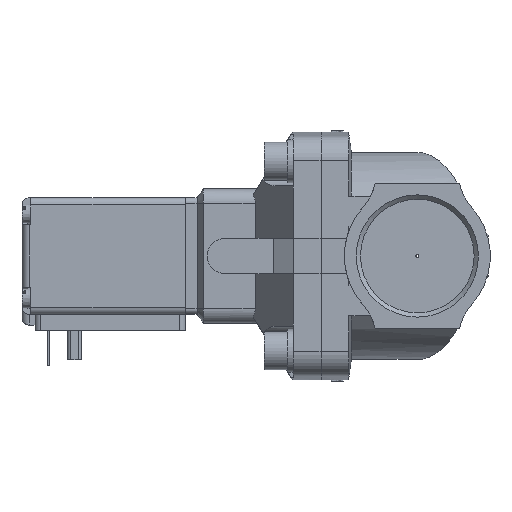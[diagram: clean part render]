
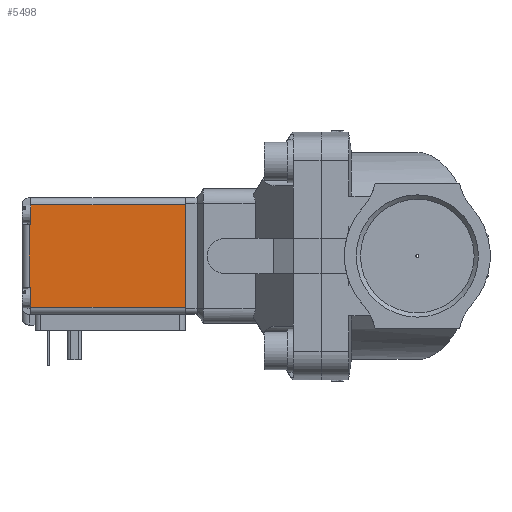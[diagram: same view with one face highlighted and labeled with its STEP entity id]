
A CAD part, left-side view. The second image highlights one B-rep face of the part: STEP entity #5498.
In plain terms, the highlighted planar face has unit normal (-1, 0, 0).
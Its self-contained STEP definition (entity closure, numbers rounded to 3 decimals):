
#198=PLANE('',#6773);
#842=LINE('',#9933,#1326);
#843=LINE('',#9938,#1327);
#908=LINE('',#10117,#1392);
#909=LINE('',#10120,#1393);
#910=LINE('',#10122,#1394);
#911=LINE('',#10123,#1395);
#912=LINE('',#10124,#1396);
#913=LINE('',#10126,#1397);
#1326=VECTOR('',#8067,1000.);
#1327=VECTOR('',#8072,1000.);
#1392=VECTOR('',#8207,1000.);
#1393=VECTOR('',#8208,1000.);
#1394=VECTOR('',#8209,1000.);
#1395=VECTOR('',#8210,1000.);
#1396=VECTOR('',#8211,1000.);
#1397=VECTOR('',#8212,1000.);
#2726=ORIENTED_EDGE('',*,*,#3758,.T.);
#2727=ORIENTED_EDGE('',*,*,#3759,.T.);
#2728=ORIENTED_EDGE('',*,*,#3760,.F.);
#2729=ORIENTED_EDGE('',*,*,#3667,.T.);
#2730=ORIENTED_EDGE('',*,*,#3761,.T.);
#2731=ORIENTED_EDGE('',*,*,#3669,.F.);
#2732=ORIENTED_EDGE('',*,*,#3762,.F.);
#2733=ORIENTED_EDGE('',*,*,#3763,.F.);
#3667=EDGE_CURVE('',#4270,#4272,#842,.T.);
#3669=EDGE_CURVE('',#4273,#4275,#843,.T.);
#3758=EDGE_CURVE('',#4354,#4355,#908,.T.);
#3759=EDGE_CURVE('',#4355,#4356,#909,.T.);
#3760=EDGE_CURVE('',#4270,#4356,#910,.T.);
#3761=EDGE_CURVE('',#4272,#4275,#911,.T.);
#3762=EDGE_CURVE('',#4357,#4273,#912,.T.);
#3763=EDGE_CURVE('',#4354,#4357,#913,.T.);
#4270=VERTEX_POINT('',#9928);
#4272=VERTEX_POINT('',#9932);
#4273=VERTEX_POINT('',#9936);
#4275=VERTEX_POINT('',#9939);
#4354=VERTEX_POINT('',#10118);
#4355=VERTEX_POINT('',#10119);
#4356=VERTEX_POINT('',#10121);
#4357=VERTEX_POINT('',#10125);
#4725=EDGE_LOOP('',(#2726,#2727,#2728,#2729,#2730,#2731,#2732,#2733));
#5083=FACE_BOUND('',#4725,.T.);
#5498=ADVANCED_FACE('',(#5083),#198,.F.);
#6773=AXIS2_PLACEMENT_3D('',#10116,#8205,#8206);
#8067=DIRECTION('',(0.,-1.,0.));
#8072=DIRECTION('',(0.,-1.,0.));
#8205=DIRECTION('',(1.,0.,0.));
#8206=DIRECTION('',(0.,0.,-1.));
#8207=DIRECTION('',(0.,0.,-1.));
#8208=DIRECTION('',(0.,-1.,0.));
#8209=DIRECTION('',(0.,0.,1.));
#8210=DIRECTION('',(0.,0.,1.));
#8211=DIRECTION('',(0.,0.,1.));
#8212=DIRECTION('',(0.,-1.,0.));
#9928=CARTESIAN_POINT('',(-20.,53.,-17.5));
#9932=CARTESIAN_POINT('',(-20.,0.,-17.5));
#9933=CARTESIAN_POINT('',(-20.,56.,-17.5));
#9936=CARTESIAN_POINT('',(-20.,53.,17.5));
#9938=CARTESIAN_POINT('',(-20.,56.,17.5));
#9939=CARTESIAN_POINT('',(-20.,0.,17.5));
#10116=CARTESIAN_POINT('',(-20.,56.,-17.5));
#10117=CARTESIAN_POINT('',(-20.,53.5,20.));
#10118=CARTESIAN_POINT('',(-20.,53.5,10.7));
#10119=CARTESIAN_POINT('',(-20.,53.5,-10.7));
#10120=CARTESIAN_POINT('',(-20.,58.,-10.7));
#10121=CARTESIAN_POINT('',(-20.,53.,-10.7));
#10122=CARTESIAN_POINT('',(-20.,53.,-17.5));
#10123=CARTESIAN_POINT('',(-20.,0.,-17.5));
#10124=CARTESIAN_POINT('',(-20.,53.,-17.5));
#10125=CARTESIAN_POINT('',(-20.,53.,10.7));
#10126=CARTESIAN_POINT('',(-20.,58.,10.7));
